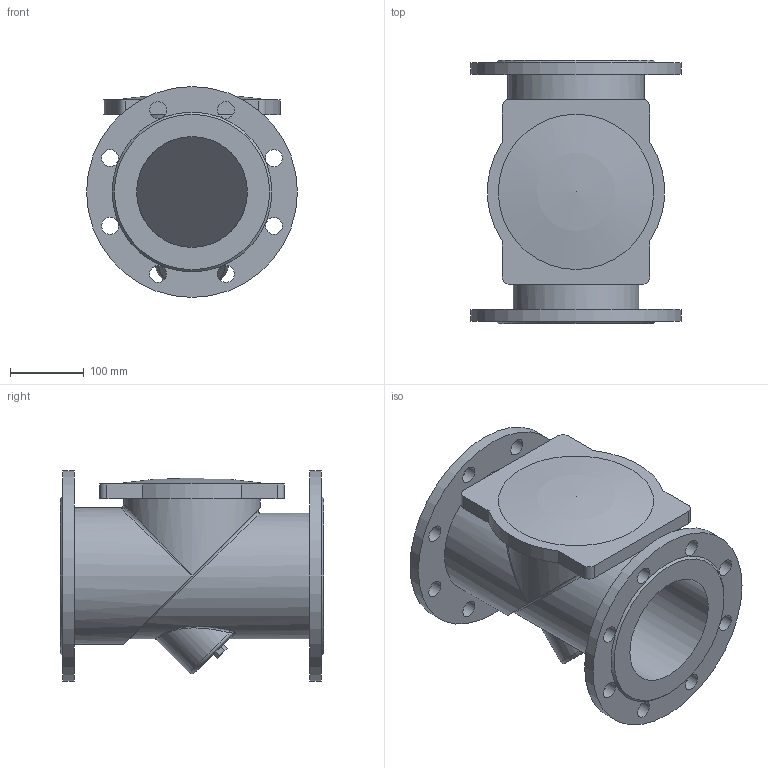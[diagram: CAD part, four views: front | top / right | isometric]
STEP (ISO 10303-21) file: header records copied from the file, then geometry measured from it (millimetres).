
FILE_DESCRIPTION(('STEP AP203'), '1');
FILE_NAME('Êëàïàí îäíîñòâîð÷àòûé îáðàòíûé ôëàíöåâûé 015F.Z DN150 PN10_PN16', '', ('UNSPECIFIED'), ('UNSPECIFIED'), 'ASCON STEP Converter 1.6', 'ASCON Math Kernel', '');
FILE_SCHEMA(('CONFIG_CONTROL_DESIGN'));
Length unit declared in the file: millimetre
Bounding box: 285 x 356 x 285 mm (x, y, z)
Volume: 5436096.5 mm3; surface area: 728869.2 mm2
Topology: 1 solids, 2 shells, 70 faces, 159 edges, 102 vertices
Faces by surface type: cylinder 33, plane 27, bspline 6, cone 2, torus 1, sphere 1
Full cylindrical faces by diameter (mm): 23 x16, 150 x2, 165 x1, 170 x1, 185 x2, 285 x2
Entity records: 4027 total; most frequent: CARTESIAN_POINT 1932, DIRECTION 298, ORIENTED_EDGE 256, EDGE_LOOP 141, AXIS2_PLACEMENT_3D 128, EDGE_CURVE 128, VERTEX_POINT 101, FACE_BOUND 88
